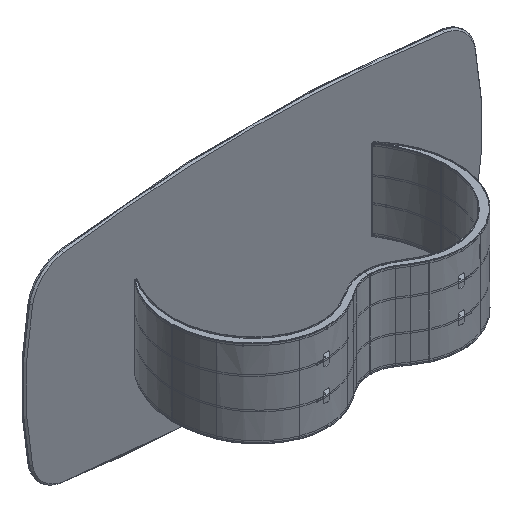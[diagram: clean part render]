
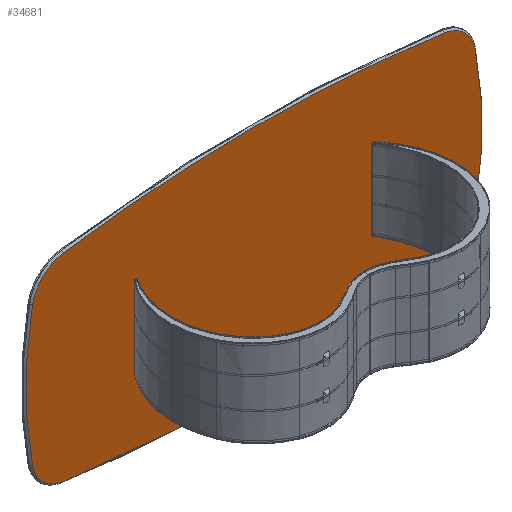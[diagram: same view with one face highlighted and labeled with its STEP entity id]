
A CAD part, isometric view. The second image highlights one B-rep face of the part: STEP entity #34681.
In plain terms, the highlighted planar face has unit normal (0, -1, 0).
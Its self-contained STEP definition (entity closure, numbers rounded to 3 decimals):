
#761 = DIRECTION ( 'NONE',  ( 0., 0., 1. ) ) ;
#908 = DIRECTION ( 'NONE',  ( 0., 0., 1. ) ) ;
#977 = DIRECTION ( 'NONE',  ( 0., -1., 0. ) ) ;
#3069 = EDGE_CURVE ( 'NONE', #6078, #28568, #31355, .T. ) ;
#3398 = AXIS2_PLACEMENT_3D ( 'NONE', #37483, #40657, #34309 ) ;
#4873 = CIRCLE ( 'NONE', #17740, 1892. ) ;
#5538 = DIRECTION ( 'NONE',  ( 0., 0., 1. ) ) ;
#5576 = AXIS2_PLACEMENT_3D ( 'NONE', #31796, #37721, #5538 ) ;
#5808 = CARTESIAN_POINT ( 'NONE',  ( 0., 0., -6355. ) ) ;
#6078 = VERTEX_POINT ( 'NONE', #35705 ) ;
#6744 = AXIS2_PLACEMENT_3D ( 'NONE', #16717, #23246, #7158 ) ;
#6903 = CARTESIAN_POINT ( 'NONE',  ( -1151.911, 0., 362.691 ) ) ;
#6943 = VERTEX_POINT ( 'NONE', #28175 ) ;
#6996 = AXIS2_PLACEMENT_3D ( 'NONE', #29792, #977, #761 ) ;
#7158 = DIRECTION ( 'NONE',  ( 0., 0., 1. ) ) ;
#7378 = DIRECTION ( 'NONE',  ( 0., 0., 1. ) ) ;
#7997 = EDGE_CURVE ( 'NONE', #6943, #24723, #10380, .T. ) ;
#8135 = EDGE_CURVE ( 'NONE', #13230, #29468, #34038, .T. ) ;
#9322 = EDGE_CURVE ( 'NONE', #34610, #6078, #40224, .T. ) ;
#9839 = ORIENTED_EDGE ( 'NONE', *, *, #20903, .T. ) ;
#9990 = ORIENTED_EDGE ( 'NONE', *, *, #33378, .T. ) ;
#10036 = FACE_OUTER_BOUND ( 'NONE', #21331, .T. ) ;
#10380 = CIRCLE ( 'NONE', #23201, 192. ) ;
#11203 = CARTESIAN_POINT ( 'NONE',  ( 963.472, 0., 325.885 ) ) ;
#11381 = CARTESIAN_POINT ( 'NONE',  ( 705., 0., 0. ) ) ;
#11884 = ORIENTED_EDGE ( 'NONE', *, *, #33933, .T. ) ;
#12284 = ORIENTED_EDGE ( 'NONE', *, *, #18415, .T. ) ;
#13230 = VERTEX_POINT ( 'NONE', #40314 ) ;
#13345 = ORIENTED_EDGE ( 'NONE', *, *, #7997, .T. ) ;
#16717 = CARTESIAN_POINT ( 'NONE',  ( 963.472, 0., -325.885 ) ) ;
#17424 = AXIS2_PLACEMENT_3D ( 'NONE', #29526, #33326, #908 ) ;
#17740 = AXIS2_PLACEMENT_3D ( 'NONE', #11381, #40576, #40777 ) ;
#18415 = EDGE_CURVE ( 'NONE', #24723, #13230, #24973, .T. ) ;
#18901 = AXIS2_PLACEMENT_3D ( 'NONE', #5808, #41772, #29084 ) ;
#19015 = CARTESIAN_POINT ( 'NONE',  ( 0., 0., -6355. ) ) ;
#19581 = PLANE ( 'NONE',  #17424 ) ;
#20360 = ORIENTED_EDGE ( 'NONE', *, *, #8135, .T. ) ;
#20662 = EDGE_CURVE ( 'NONE', #30692, #6943, #37899, .T. ) ;
#20903 = EDGE_CURVE ( 'NONE', #28568, #30692, #32480, .T. ) ;
#21331 = EDGE_LOOP ( 'NONE', ( #23220, #28250, #9839, #34987, #13345, #12284, #20360, #11884, #9990 ) ) ;
#23201 = AXIS2_PLACEMENT_3D ( 'NONE', #11203, #37024, #7378 ) ;
#23220 = ORIENTED_EDGE ( 'NONE', *, *, #9322, .T. ) ;
#23246 = DIRECTION ( 'NONE',  ( 0., -1., 0. ) ) ;
#23493 = CARTESIAN_POINT ( 'NONE',  ( 990.878, 0., -515.919 ) ) ;
#23877 = AXIS2_PLACEMENT_3D ( 'NONE', #19015, #31726, #41445 ) ;
#24134 = CARTESIAN_POINT ( 'NONE',  ( 1151.911, 0., -362.691 ) ) ;
#24713 = AXIS2_PLACEMENT_3D ( 'NONE', #25951, #36092, #41823 ) ;
#24723 = VERTEX_POINT ( 'NONE', #41476 ) ;
#24973 = CIRCLE ( 'NONE', #18901, 6942. ) ;
#25951 = CARTESIAN_POINT ( 'NONE',  ( -963.472, 0., -325.885 ) ) ;
#28175 = CARTESIAN_POINT ( 'NONE',  ( 1151.911, 0., 362.691 ) ) ;
#28250 = ORIENTED_EDGE ( 'NONE', *, *, #3069, .T. ) ;
#28568 = VERTEX_POINT ( 'NONE', #23493 ) ;
#29084 = DIRECTION ( 'NONE',  ( 0., 0., 1. ) ) ;
#29468 = VERTEX_POINT ( 'NONE', #30324 ) ;
#29526 = CARTESIAN_POINT ( 'NONE',  ( -352.5, 0., 3177.5 ) ) ;
#29792 = CARTESIAN_POINT ( 'NONE',  ( 0., 0., 6355. ) ) ;
#30324 = CARTESIAN_POINT ( 'NONE',  ( -990.878, 0., 515.919 ) ) ;
#30599 = CARTESIAN_POINT ( 'NONE',  ( -1151.911, 0., -362.691 ) ) ;
#30692 = VERTEX_POINT ( 'NONE', #24134 ) ;
#31355 = CIRCLE ( 'NONE', #6996, 6942. ) ;
#31726 = DIRECTION ( 'NONE',  ( 0., -1., 0. ) ) ;
#31796 = CARTESIAN_POINT ( 'NONE',  ( -963.472, 0., 325.885 ) ) ;
#32480 = CIRCLE ( 'NONE', #6744, 192. ) ;
#33326 = DIRECTION ( 'NONE',  ( 0., 1., 0. ) ) ;
#33378 = EDGE_CURVE ( 'NONE', #38522, #34610, #4873, .T. ) ;
#33933 = EDGE_CURVE ( 'NONE', #29468, #38522, #37335, .T. ) ;
#34038 = CIRCLE ( 'NONE', #23877, 6942. ) ;
#34309 = DIRECTION ( 'NONE',  ( 0., 0., 1. ) ) ;
#34610 = VERTEX_POINT ( 'NONE', #30599 ) ;
#34681 = ADVANCED_FACE ( 'NONE', ( #10036 ), #19581, .F. ) ;
#34987 = ORIENTED_EDGE ( 'NONE', *, *, #20662, .T. ) ;
#35705 = CARTESIAN_POINT ( 'NONE',  ( -990.878, 0., -515.919 ) ) ;
#36092 = DIRECTION ( 'NONE',  ( 0., -1., 0. ) ) ;
#37024 = DIRECTION ( 'NONE',  ( 0., -1., 0. ) ) ;
#37335 = CIRCLE ( 'NONE', #5576, 192. ) ;
#37483 = CARTESIAN_POINT ( 'NONE',  ( -705., 0., 0. ) ) ;
#37721 = DIRECTION ( 'NONE',  ( 0., -1., 0. ) ) ;
#37899 = CIRCLE ( 'NONE', #3398, 1892. ) ;
#38522 = VERTEX_POINT ( 'NONE', #6903 ) ;
#40224 = CIRCLE ( 'NONE', #24713, 192. ) ;
#40314 = CARTESIAN_POINT ( 'NONE',  ( 0., 0., 587. ) ) ;
#40576 = DIRECTION ( 'NONE',  ( 0., -1., 0. ) ) ;
#40657 = DIRECTION ( 'NONE',  ( 0., -1., 0. ) ) ;
#40777 = DIRECTION ( 'NONE',  ( 0., 0., 1. ) ) ;
#41445 = DIRECTION ( 'NONE',  ( 0., 0., 1. ) ) ;
#41476 = CARTESIAN_POINT ( 'NONE',  ( 990.878, 0., 515.919 ) ) ;
#41772 = DIRECTION ( 'NONE',  ( 0., -1., 0. ) ) ;
#41823 = DIRECTION ( 'NONE',  ( 0., 0., 1. ) ) ;
